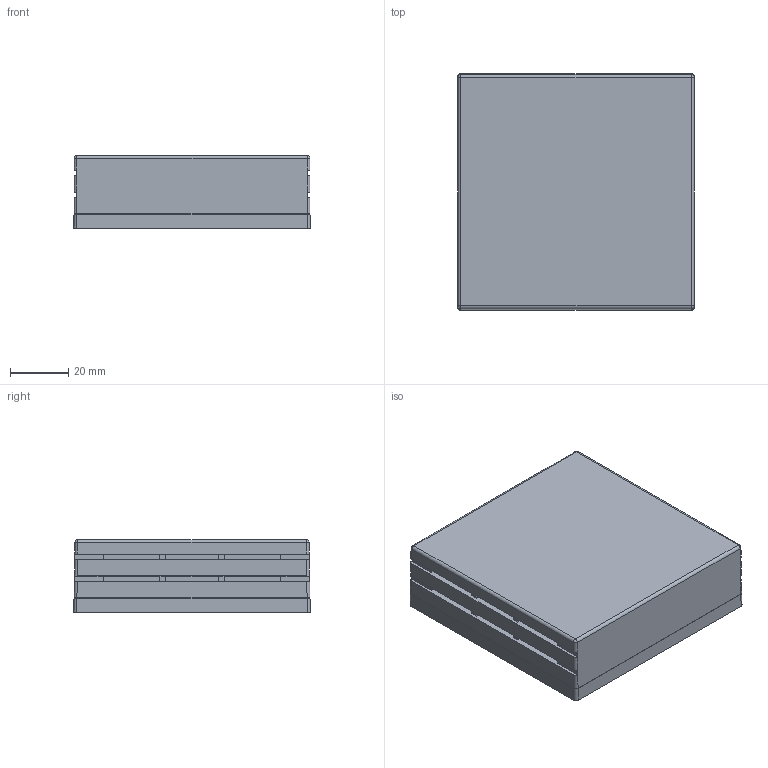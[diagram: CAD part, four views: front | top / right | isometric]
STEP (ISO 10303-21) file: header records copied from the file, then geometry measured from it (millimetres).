
FILE_DESCRIPTION(/* description */ (''),/* implementation_level */ '2;1');
FILE_NAME(/* name */ 'KNX_ENO_636_secure.stp',/* time_stamp */ '2025-10-02T14:34:44+02:00',/* author */ (''),/* organization */ (''),/* preprocessor_version */ 'ST-DEVELOPER v17.2',/* originating_system */ 'Autodesk Inventor 2019',/* authorisation */ '');
FILE_SCHEMA (('AUTOMOTIVE_DESIGN { 1 0 10303 214 3 1 1 }'));
Length unit declared in the file: millimetre
Products named in the file (1): KNX_ENO_636_secure
Bounding box: 81.17 x 81.17 x 25 mm (x, y, z)
Volume: 157036.9 mm3; surface area: 34430.3 mm2
Topology: 1 solids, 1 shells, 175 faces, 495 edges, 318 vertices
Faces by surface type: plane 96, cylinder 33, bspline 21, cone 13, torus 8, sphere 4
Entity records: 6739 total; most frequent: CARTESIAN_POINT 1994, ORIENTED_EDGE 990, DIRECTION 890, EDGE_CURVE 495, LINE 320, VECTOR 320, VERTEX_POINT 318, AXIS2_PLACEMENT_3D 285
